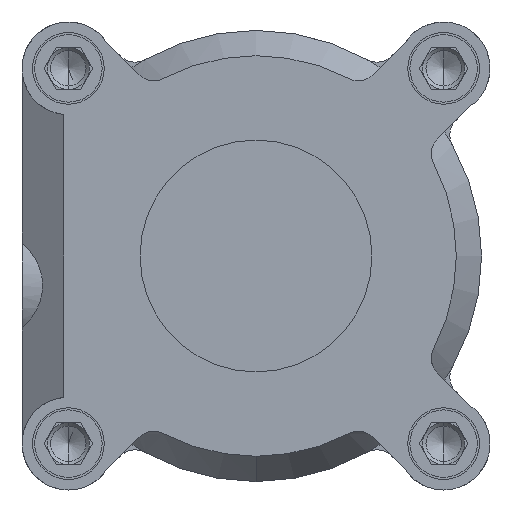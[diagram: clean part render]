
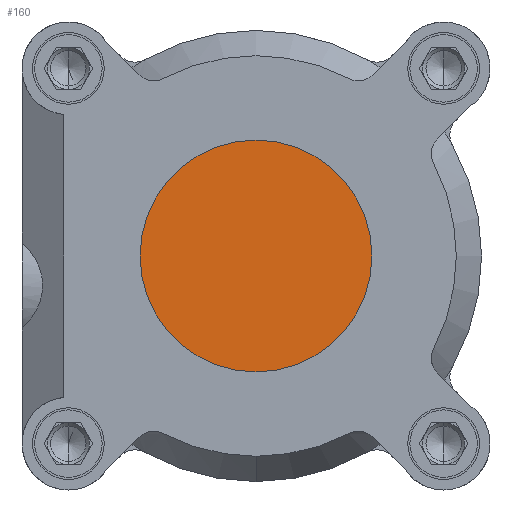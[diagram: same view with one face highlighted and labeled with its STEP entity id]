
A CAD part, left-side view. The second image highlights one B-rep face of the part: STEP entity #160.
In plain terms, the highlighted planar face has unit normal (-1, 0, 0).
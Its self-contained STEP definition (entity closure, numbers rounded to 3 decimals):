
#160 = ADVANCED_FACE ( 'NONE', ( #10823 ), #12931, .F. ) ;
#670 = CARTESIAN_POINT ( 'NONE',  ( -242., 0., 0. ) ) ;
#773 = CARTESIAN_POINT ( 'NONE',  ( -242., 0., 27.5 ) ) ;
#1336 = DIRECTION ( 'NONE',  ( 0., 0., -1. ) ) ;
#1786 = CARTESIAN_POINT ( 'NONE',  ( -242., 0., -27.5 ) ) ;
#2501 = DIRECTION ( 'NONE',  ( 1., 0., 0. ) ) ;
#2655 = DIRECTION ( 'NONE',  ( -1., 0., 0. ) ) ;
#3112 = ORIENTED_EDGE ( 'NONE', *, *, #8584, .T. ) ;
#3411 = VERTEX_POINT ( 'NONE', #1786 ) ;
#3541 = AXIS2_PLACEMENT_3D ( 'NONE', #670, #2655, #3746 ) ;
#3746 = DIRECTION ( 'NONE',  ( 0., 0., 1. ) ) ;
#4477 = CARTESIAN_POINT ( 'NONE',  ( -242., 27.5, 0. ) ) ;
#4773 = AXIS2_PLACEMENT_3D ( 'NONE', #10458, #5394, #5261 ) ;
#5261 = DIRECTION ( 'NONE',  ( 0., 0., 1. ) ) ;
#5394 = DIRECTION ( 'NONE',  ( -1., 0., 0. ) ) ;
#8584 = EDGE_CURVE ( 'NONE', #3411, #12589, #13349, .T. ) ;
#9389 = ORIENTED_EDGE ( 'NONE', *, *, #11476, .T. ) ;
#10458 = CARTESIAN_POINT ( 'NONE',  ( -242., 0., 0. ) ) ;
#10547 = AXIS2_PLACEMENT_3D ( 'NONE', #4477, #2501, #1336 ) ;
#10823 = FACE_OUTER_BOUND ( 'NONE', #13411, .T. ) ;
#11476 = EDGE_CURVE ( 'NONE', #12589, #3411, #12830, .T. ) ;
#12589 = VERTEX_POINT ( 'NONE', #773 ) ;
#12830 = CIRCLE ( 'NONE', #4773, 27.5 ) ;
#12931 = PLANE ( 'NONE',  #10547 ) ;
#13349 = CIRCLE ( 'NONE', #3541, 27.5 ) ;
#13411 = EDGE_LOOP ( 'NONE', ( #9389, #3112 ) ) ;
